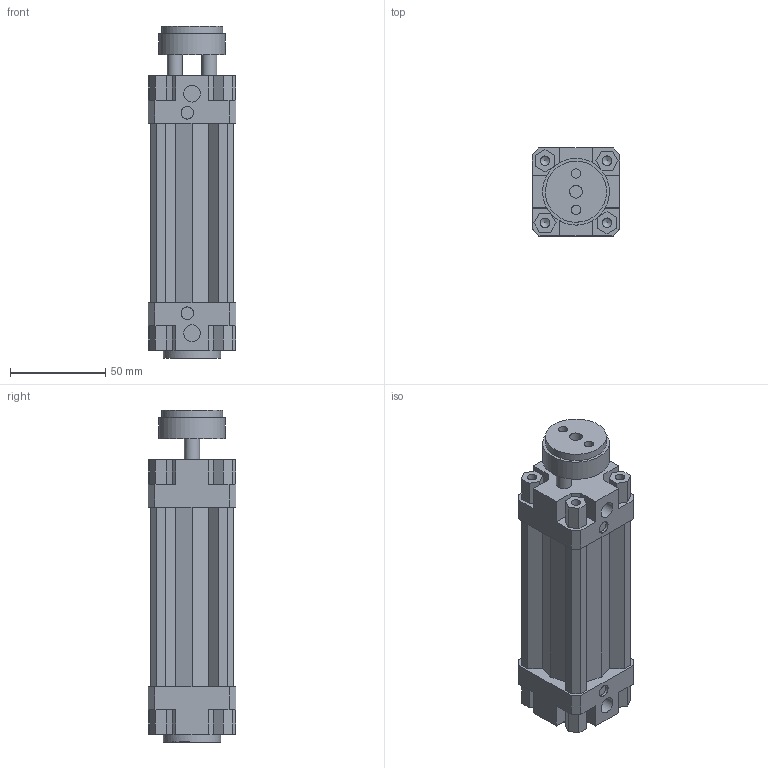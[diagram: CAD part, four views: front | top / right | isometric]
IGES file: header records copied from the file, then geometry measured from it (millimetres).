
Global section: file name: 132#_032_0050_01; native system: Autodesk Inventor 2014; preprocessor: unknown; author: A. Manieri; date: 20161006.154620; units: millimetre
Bounding box: 46 x 46 x 174 mm (x, y, z)
Volume: 207655.2 mm3; surface area: 65017.3 mm2
Topology: 2 solids, 2 shells, 187 faces, 507 edges, 343 vertices
Faces by surface type: bspline 187
